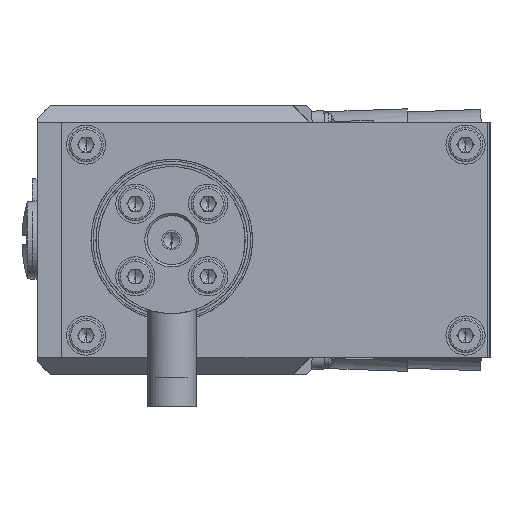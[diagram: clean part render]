
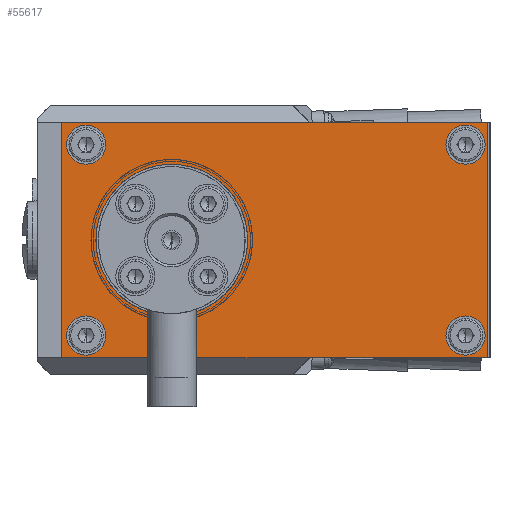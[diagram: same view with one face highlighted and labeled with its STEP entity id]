
A CAD part, left-side view. The second image highlights one B-rep face of the part: STEP entity #55617.
In plain terms, the highlighted planar face has unit normal (-1, 0, 0).
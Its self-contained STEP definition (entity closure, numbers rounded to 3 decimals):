
#136 = DIRECTION ( 'NONE',  ( 0., 0., 1. ) ) ;
#450 = DIRECTION ( 'NONE',  ( 0., 0., 1. ) ) ;
#884 = EDGE_CURVE ( 'NONE', #46507, #50984, #21793, .T. ) ;
#1001 = DIRECTION ( 'NONE',  ( -1., 0., 0. ) ) ;
#1223 = AXIS2_PLACEMENT_3D ( 'NONE', #51012, #36107, #450 ) ;
#1511 = DIRECTION ( 'NONE',  ( 0., 0., 1. ) ) ;
#2317 = ORIENTED_EDGE ( 'NONE', *, *, #26545, .F. ) ;
#2833 = EDGE_CURVE ( 'NONE', #8700, #63731, #63668, .T. ) ;
#3194 = CARTESIAN_POINT ( 'NONE',  ( -106.001, 59.379, -2.318 ) ) ;
#3410 = VECTOR ( 'NONE', #38852, 1000. ) ;
#3414 = AXIS2_PLACEMENT_3D ( 'NONE', #46239, #20942, #136 ) ;
#3705 = DIRECTION ( 'NONE',  ( -1., 0., 0. ) ) ;
#3946 = AXIS2_PLACEMENT_3D ( 'NONE', #65342, #50001, #60026 ) ;
#4464 = EDGE_LOOP ( 'NONE', ( #16366, #31808 ) ) ;
#5348 = AXIS2_PLACEMENT_3D ( 'NONE', #56529, #26111, #42044 ) ;
#5760 = EDGE_CURVE ( 'NONE', #51134, #16774, #39838, .T. ) ;
#6111 = FACE_BOUND ( 'NONE', #51830, .T. ) ;
#6129 = DIRECTION ( 'NONE',  ( 0., 0., 1. ) ) ;
#6137 = CARTESIAN_POINT ( 'NONE',  ( -106.001, -27.621, -2.318 ) ) ;
#6229 = PLANE ( 'NONE',  #5348 ) ;
#7430 = CARTESIAN_POINT ( 'NONE',  ( -106.001, 59.379, -2.318 ) ) ;
#7637 = ORIENTED_EDGE ( 'NONE', *, *, #59679, .F. ) ;
#7715 = AXIS2_PLACEMENT_3D ( 'NONE', #65919, #46116, #15446 ) ;
#7960 = DIRECTION ( 'NONE',  ( 0., 0., 1. ) ) ;
#8213 = EDGE_CURVE ( 'NONE', #11933, #8700, #40357, .T. ) ;
#8403 = VERTEX_POINT ( 'NONE', #24619 ) ;
#8700 = VERTEX_POINT ( 'NONE', #46336 ) ;
#8846 = CARTESIAN_POINT ( 'NONE',  ( -106.001, 54.379, 2.182 ) ) ;
#10787 = CARTESIAN_POINT ( 'NONE',  ( -106.001, -27.621, 45.682 ) ) ;
#11017 = DIRECTION ( 'NONE',  ( 0., 0., 1. ) ) ;
#11666 = AXIS2_PLACEMENT_3D ( 'NONE', #51783, #41983, #51362 ) ;
#11933 = VERTEX_POINT ( 'NONE', #14485 ) ;
#11975 = ORIENTED_EDGE ( 'NONE', *, *, #2833, .T. ) ;
#12862 = DIRECTION ( 'NONE',  ( -1., 0., 0. ) ) ;
#14017 = ORIENTED_EDGE ( 'NONE', *, *, #884, .F. ) ;
#14485 = CARTESIAN_POINT ( 'NONE',  ( -106.001, -27.621, -2.318 ) ) ;
#14892 = FACE_BOUND ( 'NONE', #4464, .T. ) ;
#15446 = DIRECTION ( 'NONE',  ( 0., 0., 1. ) ) ;
#16366 = ORIENTED_EDGE ( 'NONE', *, *, #25640, .F. ) ;
#16774 = VERTEX_POINT ( 'NONE', #37015 ) ;
#16919 = EDGE_LOOP ( 'NONE', ( #36317, #31225 ) ) ;
#17022 = LINE ( 'NONE', #3194, #3410 ) ;
#17782 = VERTEX_POINT ( 'NONE', #55508 ) ;
#19018 = DIRECTION ( 'NONE',  ( 0., 1., 0. ) ) ;
#19337 = AXIS2_PLACEMENT_3D ( 'NONE', #8846, #12862, #7960 ) ;
#20011 = CARTESIAN_POINT ( 'NONE',  ( -106.001, 54.379, 45.182 ) ) ;
#20857 = VERTEX_POINT ( 'NONE', #27912 ) ;
#20882 = CARTESIAN_POINT ( 'NONE',  ( -106.001, 54.379, 6.182 ) ) ;
#20942 = DIRECTION ( 'NONE',  ( -1., 0., 0. ) ) ;
#21793 = CIRCLE ( 'NONE', #3414, 4. ) ;
#22096 = CARTESIAN_POINT ( 'NONE',  ( -106.001, -23.121, 2.182 ) ) ;
#22110 = LINE ( 'NONE', #6137, #65817 ) ;
#22288 = DIRECTION ( 'NONE',  ( 0., 0., 1. ) ) ;
#22930 = FACE_BOUND ( 'NONE', #62435, .T. ) ;
#24206 = EDGE_CURVE ( 'NONE', #20857, #17782, #39775, .T. ) ;
#24619 = CARTESIAN_POINT ( 'NONE',  ( -106.001, 54.379, 37.182 ) ) ;
#25640 = EDGE_CURVE ( 'NONE', #50743, #64264, #50865, .T. ) ;
#26111 = DIRECTION ( 'NONE',  ( 1., 0., 0. ) ) ;
#26545 = EDGE_CURVE ( 'NONE', #50984, #46507, #29255, .T. ) ;
#26886 = VECTOR ( 'NONE', #11017, 1000. ) ;
#27912 = CARTESIAN_POINT ( 'NONE',  ( -106.001, -23.121, 45.182 ) ) ;
#29255 = CIRCLE ( 'NONE', #52699, 4. ) ;
#30040 = FACE_OUTER_BOUND ( 'NONE', #43964, .T. ) ;
#30557 = AXIS2_PLACEMENT_3D ( 'NONE', #59590, #3705, #53598 ) ;
#30917 = EDGE_LOOP ( 'NONE', ( #7637, #51105 ) ) ;
#31225 = ORIENTED_EDGE ( 'NONE', *, *, #36659, .F. ) ;
#31338 = CARTESIAN_POINT ( 'NONE',  ( -106.001, 36.879, 21.682 ) ) ;
#31808 = ORIENTED_EDGE ( 'NONE', *, *, #43671, .F. ) ;
#35233 = VERTEX_POINT ( 'NONE', #20011 ) ;
#35574 = VERTEX_POINT ( 'NONE', #7430 ) ;
#36107 = DIRECTION ( 'NONE',  ( -1., 0., 0. ) ) ;
#36317 = ORIENTED_EDGE ( 'NONE', *, *, #5760, .F. ) ;
#36659 = EDGE_CURVE ( 'NONE', #16774, #51134, #52374, .T. ) ;
#36675 = AXIS2_PLACEMENT_3D ( 'NONE', #62705, #37793, #22288 ) ;
#37015 = CARTESIAN_POINT ( 'NONE',  ( -106.001, 54.379, -1.818 ) ) ;
#37027 = EDGE_CURVE ( 'NONE', #35574, #11933, #22110, .T. ) ;
#37171 = CIRCLE ( 'NONE', #30557, 4. ) ;
#37793 = DIRECTION ( 'NONE',  ( -1., 0., 0. ) ) ;
#38003 = CARTESIAN_POINT ( 'NONE',  ( -106.001, 36.879, 37.182 ) ) ;
#38170 = EDGE_CURVE ( 'NONE', #8403, #35233, #62497, .T. ) ;
#38852 = DIRECTION ( 'NONE',  ( 0., 0., -1. ) ) ;
#39775 = CIRCLE ( 'NONE', #11666, 4. ) ;
#39838 = CIRCLE ( 'NONE', #1223, 4. ) ;
#40357 = LINE ( 'NONE', #10787, #26886 ) ;
#41663 = ORIENTED_EDGE ( 'NONE', *, *, #8213, .T. ) ;
#41983 = DIRECTION ( 'NONE',  ( -1., 0., 0. ) ) ;
#42044 = DIRECTION ( 'NONE',  ( 0., 0., -1. ) ) ;
#42875 = CARTESIAN_POINT ( 'NONE',  ( -106.001, 36.879, 6.182 ) ) ;
#43465 = ORIENTED_EDGE ( 'NONE', *, *, #65808, .T. ) ;
#43671 = EDGE_CURVE ( 'NONE', #64264, #50743, #52309, .T. ) ;
#43964 = EDGE_LOOP ( 'NONE', ( #41663, #11975, #43465, #48797 ) ) ;
#44037 = CARTESIAN_POINT ( 'NONE',  ( -106.001, 59.379, 45.682 ) ) ;
#44275 = FACE_BOUND ( 'NONE', #16919, .T. ) ;
#44868 = CARTESIAN_POINT ( 'NONE',  ( -106.001, -23.121, 6.182 ) ) ;
#45620 = ORIENTED_EDGE ( 'NONE', *, *, #24206, .F. ) ;
#46116 = DIRECTION ( 'NONE',  ( -1., 0., 0. ) ) ;
#46239 = CARTESIAN_POINT ( 'NONE',  ( -106.001, -23.121, 2.182 ) ) ;
#46336 = CARTESIAN_POINT ( 'NONE',  ( -106.001, -27.621, 45.682 ) ) ;
#46507 = VERTEX_POINT ( 'NONE', #47726 ) ;
#47285 = DIRECTION ( 'NONE',  ( 0., -1., 0. ) ) ;
#47726 = CARTESIAN_POINT ( 'NONE',  ( -106.001, -23.121, -1.818 ) ) ;
#48797 = ORIENTED_EDGE ( 'NONE', *, *, #37027, .T. ) ;
#49295 = VECTOR ( 'NONE', #19018, 1000. ) ;
#49432 = CARTESIAN_POINT ( 'NONE',  ( -106.001, 59.379, 45.682 ) ) ;
#50001 = DIRECTION ( 'NONE',  ( -1., 0., 0. ) ) ;
#50743 = VERTEX_POINT ( 'NONE', #38003 ) ;
#50865 = CIRCLE ( 'NONE', #50958, 15.5 ) ;
#50958 = AXIS2_PLACEMENT_3D ( 'NONE', #31338, #1001, #6129 ) ;
#50984 = VERTEX_POINT ( 'NONE', #44868 ) ;
#51012 = CARTESIAN_POINT ( 'NONE',  ( -106.001, 54.379, 2.182 ) ) ;
#51105 = ORIENTED_EDGE ( 'NONE', *, *, #38170, .F. ) ;
#51134 = VERTEX_POINT ( 'NONE', #20882 ) ;
#51362 = DIRECTION ( 'NONE',  ( 0., 0., 1. ) ) ;
#51460 = ORIENTED_EDGE ( 'NONE', *, *, #55772, .F. ) ;
#51783 = CARTESIAN_POINT ( 'NONE',  ( -106.001, -23.121, 41.182 ) ) ;
#51830 = EDGE_LOOP ( 'NONE', ( #45620, #51460 ) ) ;
#52058 = DIRECTION ( 'NONE',  ( -1., 0., 0. ) ) ;
#52309 = CIRCLE ( 'NONE', #7715, 15.5 ) ;
#52374 = CIRCLE ( 'NONE', #19337, 4. ) ;
#52699 = AXIS2_PLACEMENT_3D ( 'NONE', #22096, #52058, #1511 ) ;
#53598 = DIRECTION ( 'NONE',  ( 0., 0., 1. ) ) ;
#53941 = CIRCLE ( 'NONE', #36675, 4. ) ;
#55508 = CARTESIAN_POINT ( 'NONE',  ( -106.001, -23.121, 37.182 ) ) ;
#55617 = ADVANCED_FACE ( 'NONE', ( #44275, #22930, #62613, #6111, #14892, #30040 ), #6229, .F. ) ;
#55772 = EDGE_CURVE ( 'NONE', #17782, #20857, #37171, .T. ) ;
#56529 = CARTESIAN_POINT ( 'NONE',  ( -106.001, -27.621, -2.318 ) ) ;
#59590 = CARTESIAN_POINT ( 'NONE',  ( -106.001, -23.121, 41.182 ) ) ;
#59679 = EDGE_CURVE ( 'NONE', #35233, #8403, #53941, .T. ) ;
#60026 = DIRECTION ( 'NONE',  ( 0., 0., 1. ) ) ;
#62435 = EDGE_LOOP ( 'NONE', ( #2317, #14017 ) ) ;
#62497 = CIRCLE ( 'NONE', #3946, 4. ) ;
#62613 = FACE_BOUND ( 'NONE', #30917, .T. ) ;
#62705 = CARTESIAN_POINT ( 'NONE',  ( -106.001, 54.379, 41.182 ) ) ;
#63668 = LINE ( 'NONE', #49432, #49295 ) ;
#63731 = VERTEX_POINT ( 'NONE', #44037 ) ;
#64264 = VERTEX_POINT ( 'NONE', #42875 ) ;
#65342 = CARTESIAN_POINT ( 'NONE',  ( -106.001, 54.379, 41.182 ) ) ;
#65808 = EDGE_CURVE ( 'NONE', #63731, #35574, #17022, .T. ) ;
#65817 = VECTOR ( 'NONE', #47285, 1000. ) ;
#65919 = CARTESIAN_POINT ( 'NONE',  ( -106.001, 36.879, 21.682 ) ) ;
